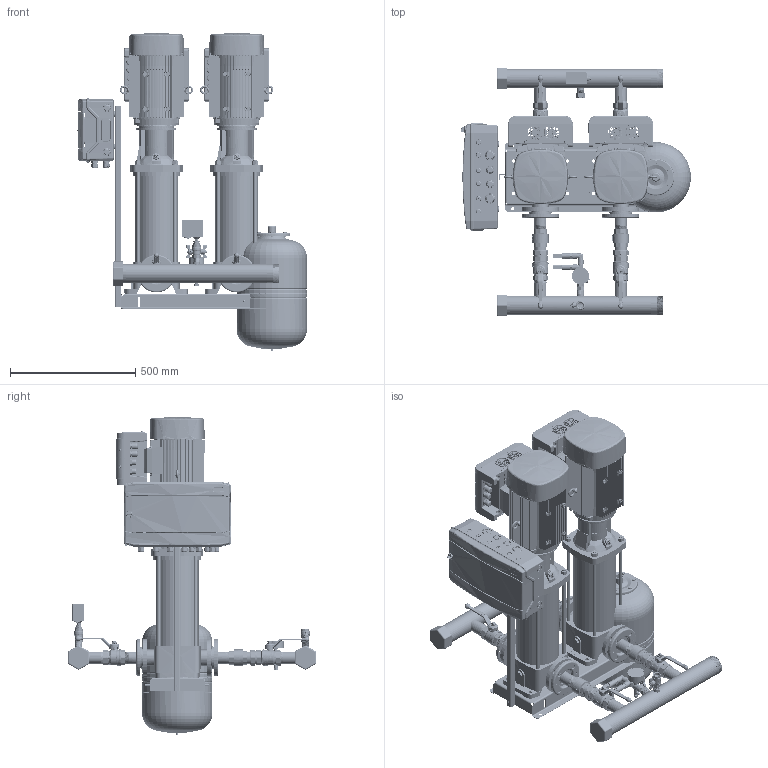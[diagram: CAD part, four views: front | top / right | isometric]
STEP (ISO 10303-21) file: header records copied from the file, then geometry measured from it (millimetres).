
FILE_DESCRIPTION(('CATIA V5 STEP Exchange','CAx-IF Rec.Pracs.--- Model Styling and Organization---1.4--- 2014-01-23','CAx-IF Rec.Pracs.---3D Tessellated Data Validation Properties---0.5---2014-09-14'),'2;1');
FILE_NAME('C:\Users\78432\YandexDisk\Drawings and 3D\3D Hydro Booster\Hydro-ME 3D\Hydro Models\Hydro ME 2 CRV10-xx\Hydro ME 2 CRVE10-12 (DIN).stp','2023-09-20T10:23:37+00:00',('none'),('none'),'CATIA Version 5-6 Release 2019 SP6','CATIA V5 STEP AP242 v1','none');
FILE_SCHEMA(('AP242_MANAGED_MODEL_BASED_3D_ENGINEERING_MIM_LF {1 0 10303 442 1 1 4}'));
Length unit declared in the file: millimetre
Products named in the file (49): Hydro ME 2 CRVE10-12 (DIN); 92051008; CRV10-12 Set (DIN); CRV 10-12_A_DIN_4kW; Base; Sleeve; Pumphead; Staybolt.1; Staybolt.2; Staybolt.3; Staybolt.4; Plug; AirVent; Motor; 00id2582; Adapter DN40-1,5" (96619634); 91040268; 91070086; 99110034; Hydraulica NY DN32 1,5 PN16; 92807557_9013-05; DN40_FM_LV_47.303.40; DN40_FF_LV_47.301; SAJ PDH30 4-7,5kW; 97941444; 405801; 405816; 91040267; 97941481; 00ID7527; Holder and CP 18mod; 92878909; Control ME (18mod); 2 sensors + manometer cpl.; manometr 16 bar; RPD-I-G1_2; 9021-01; 2070 1/2-1/2; _2020 1/2-1/2; 98594078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
Assembly tree (57 placements, depth 4):
  Hydro ME 2 CRVE10-12 (DIN)
    92051008
    CRV10-12 Set (DIN)  x2
      CRV 10-12_A_DIN_4kW
        Base
        Sleeve
        Pumphead
        Staybolt.1
        Staybolt.2
        Staybolt.3
        Staybolt.4
        Plug
        AirVent
        Motor
      00id2582
      Adapter DN40-1,5" (96619634)
        91040268
        91070086
        99110034
      Hydraulica NY DN32 1,5 PN16
      92807557_9013-05
      DN40_FM_LV_47.303.40
      DN40_FF_LV_47.301
      SAJ PDH30 4-7,5kW
    97941444  x2
      405801
      405816
      91040267
      97941481
    00ID7527  x2
    Holder and CP 18mod
      92878909
      Control ME (18mod)
    2 sensors + manometer cpl.
      manometr 16 bar
      RPD-I-G1_2  x2
      9021-01
      2070 1/2-1/2
      _2020 1/2-1/2
      98594078
    Tank 24L cpl.
      DN20_FF_BF_47.300.20
      9021-03
    Relay cpl.
      Relay RD-2R
      DN20_FF_BF_47.300.20
      2530 3/4-1/2
      _2530 1/2-1/4
    91078139
  WAV-24(D140 1'')
Bounding box: 916.82 x 989.22 x 1268.27 mm (x, y, z)
Volume: 89586779.2 mm3; surface area: 8195030.4 mm2
Topology: 192 solids, 222 shells, 26507 faces, 76352 edges, 51086 vertices
Faces by surface type: plane 10744, cylinder 6717, bspline 6588, cone 1657, torus 502, sphere 169, extrusion 130
Entity records: 719929 total; most frequent: CARTESIAN_POINT 365756, ORIENTED_EDGE 91385, EDGE_CURVE 46233, DIRECTION 41500, VERTEX_POINT 30861, VECTOR 19160, LINE 19095, B_SPLINE_CURVE_WITH_KNOTS 18653
